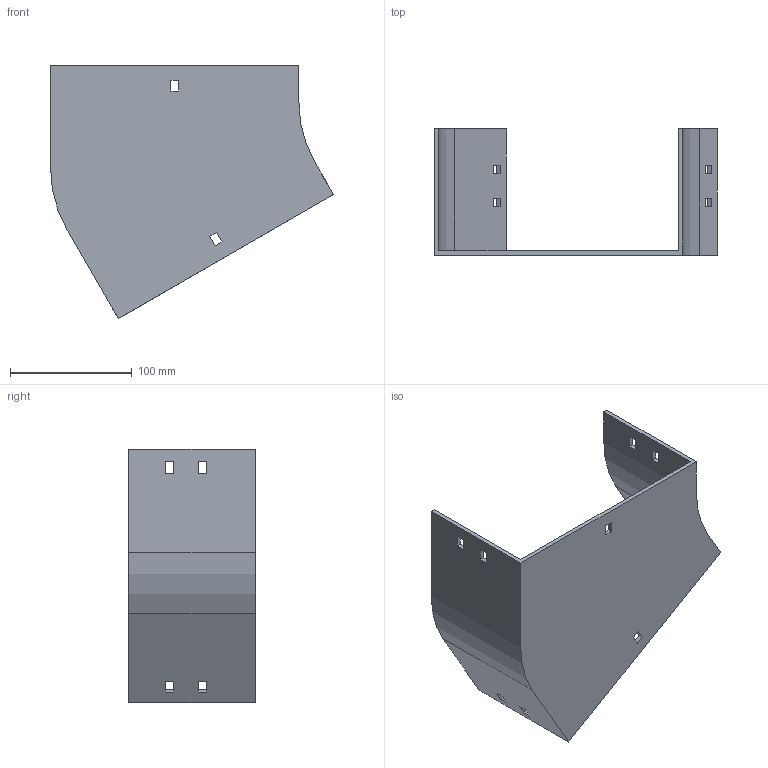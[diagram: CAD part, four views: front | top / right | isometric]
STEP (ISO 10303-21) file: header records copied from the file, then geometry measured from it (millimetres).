
FILE_DESCRIPTION (( 'STEP AP214' ), '1' );
FILE_NAME ('12F1D200.step', '2025-02-21T12:53:33', ( '' ), ( '' ), 'SwSTEP 2.0', 'SolidWorks 2023', '' );
FILE_SCHEMA (( 'AUTOMOTIVE_DESIGN' ));
Length unit declared in the file: millimetre
Products named in the file (1): 12F1D200
Bounding box: 232.4 x 104 x 207.98 mm (x, y, z)
Volume: 235261.7 mm3; surface area: 139608.4 mm2
Topology: 1 solids, 1 shells, 58 faces, 168 edges, 112 vertices
Faces by surface type: plane 54, cylinder 4
Entity records: 1943 total; most frequent: CARTESIAN_POINT 339, ORIENTED_EDGE 336, DIRECTION 294, EDGE_CURVE 168, LINE 160, VECTOR 160, VERTEX_POINT 112, EDGE_LOOP 78
